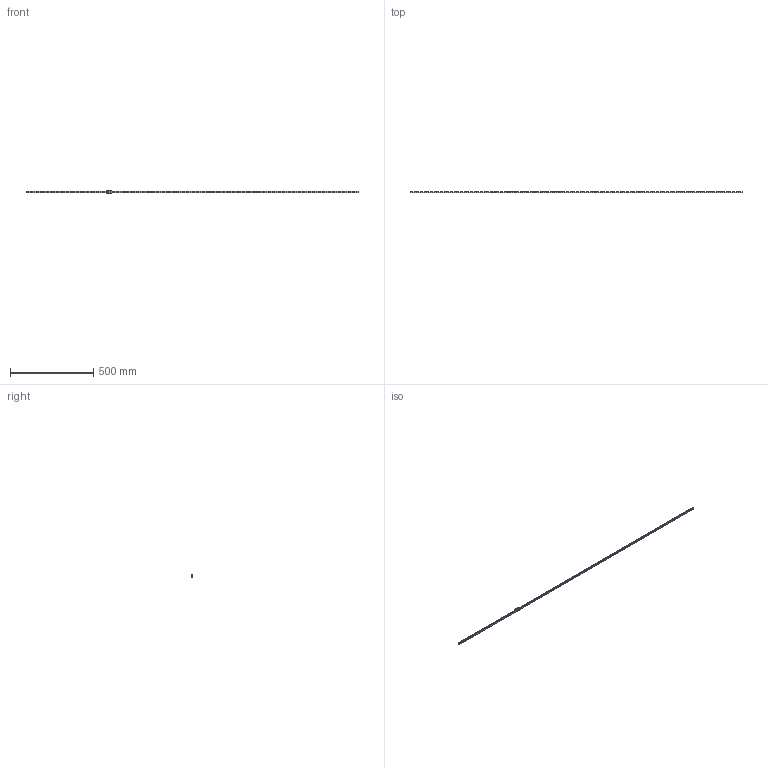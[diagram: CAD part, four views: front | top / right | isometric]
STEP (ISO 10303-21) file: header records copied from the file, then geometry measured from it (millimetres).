
FILE_DESCRIPTION((''),'2;1');
FILE_NAME('BMHS9-U01Z0-2000-D0_1_ASM_ASM','2020-11-25T10:35:45',('TWVS2025'),(''),'CREO PARAMETRIC BY PTC INC, 2018420','CREO PARAMETRIC BY PTC INC, 2018420','');
FILE_SCHEMA(('CONFIG_CONTROL_DESIGN'));
Length unit declared in the file: millimetre
Products named in the file (4): IR-BMH9-2000_1; BC-BMHC9-U0S-Z0_1; BMHS9-U01Z0-1000-D0_1_ASM_1_ASM; BMHS9-U01Z0-2000-D0_1_ASM_ASM
Assembly tree (3 placements, depth 3):
  BMHS9-U01Z0-2000-D0_1_ASM_ASM
    BMHS9-U01Z0-1000-D0_1_ASM_1_ASM
      IR-BMH9-2000_1
      BC-BMHC9-U0S-Z0_1
Bounding box: 2000 x 10 x 20 mm (x, y, z)
Volume: 100624.3 mm3; surface area: 73709 mm2
Topology: 5 solids, 6 shells, 1160 faces, 3058 edges, 1952 vertices
Faces by surface type: cylinder 538, plane 334, cone 216, sphere 56, torus 16
Entity records: 38364 total; most frequent: CARTESIAN_POINT 8371, DIRECTION 6642, ORIENTED_EDGE 5986, EDGE_CURVE 2997, AXIS2_PLACEMENT_3D 2653, VERTEX_POINT 1952, EDGE_LOOP 1504, CIRCLE 1484
